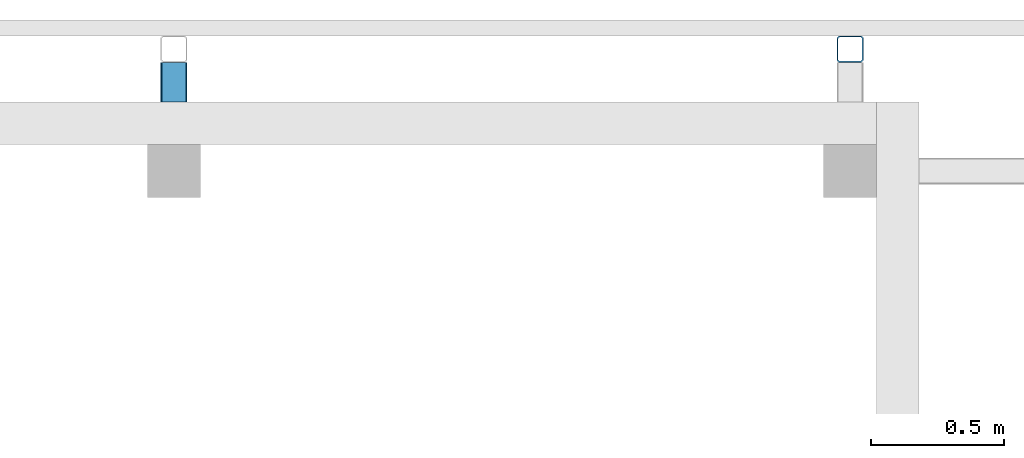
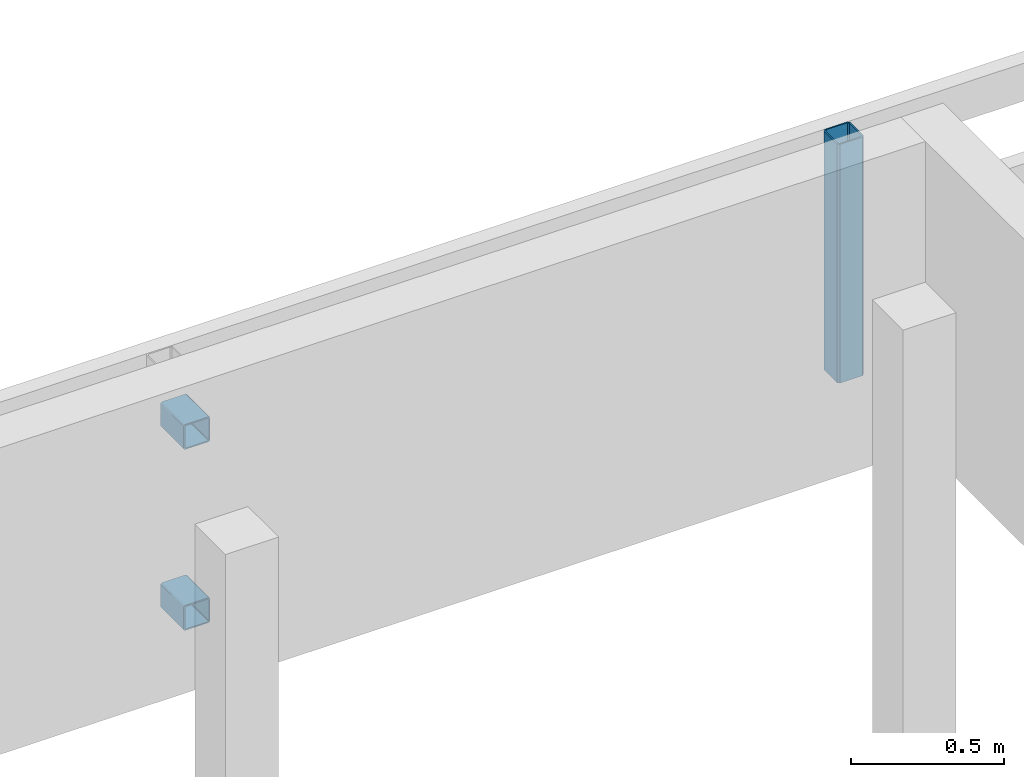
# One storey, part 41 of 44: 3 members.
"""IFC4 building model written with IfcOpenShell, lengths in metres."""

from ifc_helpers import new_model, entity, si_unit, converted_unit, derived_unit, frame, origin, place, context, subcontext, project, spatial, faceted_brep, material, element, save


model = new_model("IFC4")

# Units and contexts
model_context = context("Model", 3, precision=1e-05, world=origin())
plan_context = context("Plan", 2, precision=1e-05, world=origin())
body_context = subcontext(model_context, "Body", "Model", "MODEL_VIEW")
ifc_project = project(units=[si_unit("LENGTHUNIT", "METRE"), si_unit("AREAUNIT", "SQUARE_METRE"), si_unit("VOLUMEUNIT", "CUBIC_METRE"), si_unit("MASSUNIT", "GRAM", prefix="KILO"), converted_unit("PLANEANGLEUNIT", "DEGREE", entity("IfcPlaneAngleMeasure", 0.0174532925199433), si_unit("PLANEANGLEUNIT", "RADIAN"), dimensions=[0, 0, 0, 0, 0, 0, 0]), derived_unit("THERMALTRANSMITTANCEUNIT", [(si_unit("POWERUNIT", "WATT"), 1), (si_unit("THERMODYNAMICTEMPERATUREUNIT", "KELVIN"), -1), (si_unit("LENGTHUNIT", "METRE"), -2)]), derived_unit("VOLUMETRICFLOWRATEUNIT", [(si_unit("LENGTHUNIT", "METRE"), 3), (converted_unit("TIMEUNIT", "hour", entity("IfcTimeMeasure", 3600.0), si_unit("TIMEUNIT", "SECOND"), dimensions=[0, 0, 1, 0, 0, 0, 0]), -1), (si_unit("LENGTHUNIT", "METRE"), -1)])], contexts=[model_context, plan_context])

# Site, building, storey
site_placement = place(None, origin())
site = spatial("IfcSite", under=ifc_project, at=site_placement, Name="Site", CompositionType="ELEMENT")
building_placement = place(site_placement, origin())
building = spatial("IfcBuilding", under=site, at=building_placement, Name="Admin", CompositionType="ELEMENT")
storey_placement = place(building_placement, frame((0.0, 0.0, 3.25)))
storey = spatial("IfcBuildingStorey", under=building, at=storey_placement, Name="01-Etage1", CompositionType="ELEMENT", Elevation=3.25)

# Members
ifc_material_1 = material(Name="S235")
member_1_placement = place(storey_placement, frame((57.9097996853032, 22.4994493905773, 2.82)))
element("IfcMember", 1, at=member_1_placement, inside=storey, material=ifc_material_1, Name="Bandeau R+1", context=body_context, shape_type="Brep", body=[
    faceted_brep([(0.09, 0.005, 0.0), (0.09, 0.005, 0.95), (0.01, 0.005, 0.95), (0.01, 0.005, 0.0), (0.095, 0.01, 0.0), (0.095, 0.01, 0.95), (0.095, 0.09, 0.0), (0.095, 0.09, 0.95), (0.09, 0.095, 0.0), (0.09, 0.095, 0.95), (0.01, 0.095, 0.0), (0.01, 0.095, 0.95), (0.005, 0.09, 0.0), (0.005, 0.09, 0.95), (0.005, 0.01, 0.0), (0.005, 0.01, 0.95), (0.0, 0.0075, 0.0), (0.0, 0.0075, 0.95), (0.0075, 0.0, 0.95), (0.0075, 0.0, 0.0), (0.0, 0.0925, 0.0), (0.0, 0.0925, 0.95), (0.0075, 0.1, 0.0), (0.0075, 0.1, 0.95), (0.0925, 0.1, 0.0), (0.0925, 0.1, 0.95), (0.1, 0.0925, 0.0), (0.1, 0.0925, 0.95), (0.1, 0.0075, 0.0), (0.1, 0.0075, 0.95), (0.0925, 0.0, 0.0), (0.0925, 0.0, 0.95)], [[[0, 1, 2, 3]], [[4, 5, 1, 0]], [[6, 7, 5, 4]], [[8, 9, 7, 6]], [[10, 11, 9, 8]], [[12, 13, 11, 10]], [[14, 15, 13, 12]], [[3, 2, 15, 14]], [[16, 17, 18, 19]], [[20, 21, 17, 16]], [[22, 23, 21, 20]], [[24, 25, 23, 22]], [[26, 27, 25, 24]], [[28, 29, 27, 26]], [[30, 31, 29, 28]], [[19, 18, 31, 30]], [[18, 17, 21, 23, 25, 27, 29, 31], [2, 1, 5, 7, 9, 11, 13, 15]], [[19, 30, 28, 26, 24, 22, 20, 16], [3, 14, 12, 10, 8, 6, 4, 0]]], orient=[[False], [False], [False], [False], [False], [False], [False], [False], [False], [False], [False], [False], [False], [False], [False], [False], [False, False], [False, False]]),
])
ifc_material_2 = material(Name="S235")
member_2_placement = place(storey_placement, frame((55.3598005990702, 22.3494493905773, 2.82)))
element("IfcMember", 2, at=member_2_placement, inside=storey, material=ifc_material_2, Name="Bandeau R+1", context=body_context, shape_type="Brep", body=[
    faceted_brep([(0.0050000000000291, 0.15, 0.09), (0.0050000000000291, 0.15, 0.01), (0.00500000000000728, 1.81898940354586e-14, 0.01), (0.00500000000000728, 1.81898940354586e-14, 0.09), (0.00507596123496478, 0.15, 0.0908682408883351), (0.00507596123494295, 1.81898940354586e-14, 0.0908682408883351), (0.0053015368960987, 0.15, 0.0917101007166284), (0.00530153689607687, 1.81898940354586e-14, 0.0917101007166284), (0.00566987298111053, 0.15, 0.0925), (0.0056698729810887, 1.81898940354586e-14, 0.0925), (0.00616977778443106, 0.15, 0.0932139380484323), (0.00616977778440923, 1.81898940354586e-14, 0.0932139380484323), (0.00678606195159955, 0.15, 0.0938302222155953), (0.00678606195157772, 1.81898940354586e-14, 0.0938302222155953), (0.0075000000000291, 0.15, 0.0943301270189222), (0.00750000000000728, 1.81898940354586e-14, 0.0943301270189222), (0.00828989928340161, 0.15, 0.0946984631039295), (0.00828989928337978, 1.81898940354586e-14, 0.0946984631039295), (0.00913175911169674, 0.15, 0.0949240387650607), (0.00913175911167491, 1.81898940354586e-14, 0.0949240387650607), (0.0100000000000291, 0.15, 0.095), (0.0100000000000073, 1.81898940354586e-14, 0.095), (0.0900000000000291, 0.149999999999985, 0.095), (0.0900000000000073, 3.63797880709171e-15, 0.095), (0.0908682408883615, 0.149999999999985, 0.0949240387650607), (0.0908682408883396, 3.63797880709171e-15, 0.0949240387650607), (0.0917101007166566, 0.149999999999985, 0.0946984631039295), (0.0917101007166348, 3.63797880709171e-15, 0.0946984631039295), (0.0925000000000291, 0.149999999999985, 0.0943301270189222), (0.0925000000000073, 3.63797880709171e-15, 0.0943301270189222), (0.0932139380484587, 0.149999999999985, 0.0938302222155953), (0.0932139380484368, 3.63797880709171e-15, 0.0938302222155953), (0.0938302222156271, 0.149999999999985, 0.0932139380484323), (0.0938302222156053, 3.63797880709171e-15, 0.0932139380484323), (0.0943301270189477, 0.149999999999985, 0.0925), (0.0943301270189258, 3.63797880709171e-15, 0.0925), (0.0946984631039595, 0.149999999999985, 0.0917101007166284), (0.0946984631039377, 3.63797880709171e-15, 0.0917101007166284), (0.0949240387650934, 0.149999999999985, 0.0908682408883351), (0.0949240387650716, 3.63797880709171e-15, 0.0908682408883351), (0.0950000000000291, 0.149999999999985, 0.09), (0.0950000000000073, 3.63797880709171e-15, 0.09), (0.0950000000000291, 0.149999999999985, 0.01), (0.0950000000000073, 3.63797880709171e-15, 0.01), (0.0949240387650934, 0.149999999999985, 0.00913175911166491), (0.0949240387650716, 3.63797880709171e-15, 0.00913175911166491), (0.0946984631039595, 0.149999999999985, 0.0082898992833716), (0.0946984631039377, 3.63797880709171e-15, 0.0082898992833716), (0.0943301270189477, 0.149999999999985, 0.0075), (0.0943301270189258, 3.63797880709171e-15, 0.0075), (0.0938302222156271, 0.149999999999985, 0.00678606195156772), (0.0938302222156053, 3.63797880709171e-15, 0.00678606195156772), (0.0932139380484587, 0.149999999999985, 0.00616977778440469), (0.0932139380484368, 3.63797880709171e-15, 0.00616977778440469), (0.0925000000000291, 0.149999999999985, 0.00566987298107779), (0.0925000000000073, 3.63797880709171e-15, 0.00566987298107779), (0.0917101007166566, 0.149999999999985, 0.0053015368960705), (0.0917101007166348, 3.63797880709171e-15, 0.0053015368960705), (0.0908682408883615, 0.149999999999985, 0.00507596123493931), (0.0908682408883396, 3.63797880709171e-15, 0.00507596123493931), (0.0900000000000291, 0.149999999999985, 0.005), (0.0900000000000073, 3.63797880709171e-15, 0.005), (0.0100000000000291, 0.15, 0.005), (0.0100000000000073, 1.81898940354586e-14, 0.005), (0.00913175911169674, 0.15, 0.00507596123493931), (0.00913175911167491, 1.81898940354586e-14, 0.00507596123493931), (0.00828989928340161, 0.15, 0.0053015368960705), (0.00828989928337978, 1.81898940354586e-14, 0.0053015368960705), (0.0075000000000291, 0.15, 0.00566987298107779), (0.00750000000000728, 1.81898940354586e-14, 0.00566987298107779), (0.00678606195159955, 0.15, 0.00616977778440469), (0.00678606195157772, 1.81898940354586e-14, 0.00616977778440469), (0.00616977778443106, 0.15, 0.00678606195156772), (0.00616977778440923, 1.81898940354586e-14, 0.00678606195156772), (0.00566987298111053, 0.15, 0.0075), (0.0056698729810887, 1.81898940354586e-14, 0.0075), (0.0053015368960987, 0.15, 0.0082898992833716), (0.00530153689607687, 1.81898940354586e-14, 0.0082898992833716), (0.00507596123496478, 0.15, 0.00913175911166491), (0.00507596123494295, 1.81898940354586e-14, 0.00913175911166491), (0.0925000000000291, 0.149999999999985, 0.1), (0.0938023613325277, 0.149999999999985, 0.0998860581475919), (0.0938023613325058, 3.63797880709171e-15, 0.0998860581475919), (0.0925000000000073, 3.63797880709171e-15, 0.1), (0.0075000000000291, 0.15, 0.1), (0.00750000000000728, 1.81898940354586e-14, 0.1), (0.00619763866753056, 0.15, 0.0998860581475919), (0.00619763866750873, 1.81898940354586e-14, 0.0998860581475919), (0.00493484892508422, 0.15, 0.0995476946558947), (0.0049348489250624, 1.81898940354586e-14, 0.0995476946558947), (0.0037500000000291, 0.15, 0.0989951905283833), (0.00375000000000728, 1.81898940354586e-14, 0.0989951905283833), (0.0026790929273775, 0.15, 0.0982453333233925), (0.00267909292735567, 1.81898940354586e-14, 0.0982453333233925), (0.00175466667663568, 0.15, 0.0973209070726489), (0.00175466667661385, 1.81898940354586e-14, 0.0973209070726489), (0.0010048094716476, 0.15, 0.09625), (0.00100480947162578, 1.81898940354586e-14, 0.09625), (0.00045230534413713, 0.15, 0.0950651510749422), (0.000452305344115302, 1.81898940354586e-14, 0.0950651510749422), (0.000113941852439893, 0.15, 0.0938023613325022), (0.000113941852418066, 1.81898940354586e-14, 0.0938023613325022), (2.18278728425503e-14, 0.15, 0.0925), (7.27595761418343e-15, 1.45519152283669e-14, 0.0925), (0.000113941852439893, 0.15, 0.00619763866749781), (2.91038304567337e-14, 0.15, 0.0075), (7.27595761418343e-15, 1.81898940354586e-14, 0.0075), (0.000113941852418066, 1.81898940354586e-14, 0.00619763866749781), (0.00045230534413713, 0.15, 0.00493484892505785), (0.000452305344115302, 1.81898940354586e-14, 0.00493484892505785), (0.0010048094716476, 0.15, 0.00375), (0.00100480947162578, 1.81898940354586e-14, 0.00375), (0.00175466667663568, 0.15, 0.00267909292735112), (0.00175466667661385, 1.81898940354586e-14, 0.00267909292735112), (0.0026790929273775, 0.15, 0.00175466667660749), (0.00267909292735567, 1.81898940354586e-14, 0.00175466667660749), (0.0037500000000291, 0.15, 0.00100480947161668), (0.00375000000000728, 1.81898940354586e-14, 0.00100480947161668), (0.00493484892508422, 0.15, 0.000452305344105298), (0.0049348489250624, 1.81898940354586e-14, 0.000452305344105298), (0.00619763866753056, 0.15, 0.000113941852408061), (0.00619763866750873, 1.81898940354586e-14, 0.000113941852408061), (0.0075000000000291, 0.15, 0.0), (0.00750000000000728, 1.81898940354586e-14, 0.0), (0.0925000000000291, 0.149999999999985, 0.0), (0.0925000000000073, 3.63797880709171e-15, 0.0), (0.0938023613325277, 0.149999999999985, 0.000113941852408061), (0.0938023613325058, 3.63797880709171e-15, 0.000113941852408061), (0.095065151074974, 0.149999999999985, 0.000452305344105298), (0.0950651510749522, 3.63797880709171e-15, 0.000452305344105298), (0.0962500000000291, 0.149999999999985, 0.00100480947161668), (0.0962500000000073, 3.63797880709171e-15, 0.00100480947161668), (0.0973209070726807, 0.149999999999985, 0.00175466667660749), (0.0973209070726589, 3.63797880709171e-15, 0.00175466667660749), (0.0982453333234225, 0.149999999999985, 0.00267909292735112), (0.0982453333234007, 3.63797880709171e-15, 0.00267909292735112), (0.0989951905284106, 0.149999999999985, 0.00375), (0.0989951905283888, 3.63797880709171e-15, 0.00375), (0.0995476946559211, 0.149999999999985, 0.00493484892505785), (0.0995476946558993, 3.63797880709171e-15, 0.00493484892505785), (0.0998860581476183, 0.149999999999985, 0.00619763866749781), (0.0998860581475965, 3.63797880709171e-15, 0.00619763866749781), (0.100000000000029, 0.15, 0.0075), (0.100000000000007, 3.63797880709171e-15, 0.0075), (0.0998860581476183, 0.149999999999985, 0.0938023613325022), (0.100000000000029, 0.15, 0.0925), (0.100000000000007, 3.63797880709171e-15, 0.0925), (0.0998860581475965, 3.63797880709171e-15, 0.0938023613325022), (0.0995476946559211, 0.149999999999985, 0.0950651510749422), (0.0995476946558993, 3.63797880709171e-15, 0.0950651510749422), (0.0989951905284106, 0.149999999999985, 0.09625), (0.0989951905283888, 3.63797880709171e-15, 0.09625), (0.0982453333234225, 0.149999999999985, 0.0973209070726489), (0.0982453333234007, 3.63797880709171e-15, 0.0973209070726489), (0.0973209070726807, 0.149999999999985, 0.0982453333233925), (0.0973209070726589, 3.63797880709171e-15, 0.0982453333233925), (0.0962500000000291, 0.149999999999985, 0.0989951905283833), (0.0962500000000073, 3.63797880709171e-15, 0.0989951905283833), (0.095065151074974, 0.149999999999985, 0.0995476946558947), (0.0950651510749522, 3.63797880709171e-15, 0.0995476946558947)], [[[0, 1, 2, 3]], [[4, 0, 3, 5]], [[6, 4, 5, 7]], [[8, 6, 7, 9]], [[10, 8, 9, 11]], [[12, 10, 11, 13]], [[14, 12, 13, 15]], [[16, 14, 15, 17]], [[18, 16, 17, 19]], [[20, 18, 19, 21]], [[22, 20, 21, 23]], [[24, 22, 23, 25]], [[26, 24, 25, 27]], [[28, 26, 27, 29]], [[30, 28, 29, 31]], [[32, 30, 31, 33]], [[34, 32, 33, 35]], [[36, 34, 35, 37]], [[38, 36, 37, 39]], [[40, 38, 39, 41]], [[42, 40, 41, 43]], [[44, 42, 43, 45]], [[46, 44, 45, 47]], [[48, 46, 47, 49]], [[50, 48, 49, 51]], [[52, 50, 51, 53]], [[54, 52, 53, 55]], [[56, 54, 55, 57]], [[58, 56, 57, 59]], [[60, 58, 59, 61]], [[62, 60, 61, 63]], [[64, 62, 63, 65]], [[66, 64, 65, 67]], [[68, 66, 67, 69]], [[70, 68, 69, 71]], [[72, 70, 71, 73]], [[74, 72, 73, 75]], [[76, 74, 75, 77]], [[78, 76, 77, 79]], [[1, 78, 79, 2]], [[80, 81, 82, 83]], [[84, 80, 83, 85]], [[86, 84, 85, 87]], [[88, 86, 87, 89]], [[90, 88, 89, 91]], [[92, 90, 91, 93]], [[94, 92, 93, 95]], [[96, 94, 95, 97]], [[98, 96, 97, 99]], [[100, 98, 99, 101]], [[102, 100, 101, 103]], [[104, 105, 106, 107]], [[108, 104, 107, 109]], [[110, 108, 109, 111]], [[112, 110, 111, 113]], [[114, 112, 113, 115]], [[116, 114, 115, 117]], [[118, 116, 117, 119]], [[120, 118, 119, 121]], [[122, 120, 121, 123]], [[124, 122, 123, 125]], [[126, 124, 125, 127]], [[128, 126, 127, 129]], [[130, 128, 129, 131]], [[132, 130, 131, 133]], [[134, 132, 133, 135]], [[136, 134, 135, 137]], [[138, 136, 137, 139]], [[140, 138, 139, 141]], [[142, 140, 141, 143]], [[144, 145, 146, 147]], [[148, 144, 147, 149]], [[150, 148, 149, 151]], [[152, 150, 151, 153]], [[154, 152, 153, 155]], [[156, 154, 155, 157]], [[158, 156, 157, 159]], [[81, 158, 159, 82]], [[146, 143, 141, 139, 137, 135, 133, 131, 129, 127, 125, 123, 121, 119, 117, 115, 113, 111, 109, 107, 106, 103, 101, 99, 97, 95, 93, 91, 89, 87, 85, 83, 82, 159, 157, 155, 153, 151, 149, 147], [2, 79, 77, 75, 73, 71, 69, 67, 65, 63, 61, 59, 57, 55, 53, 51, 49, 47, 45, 43, 41, 39, 37, 35, 33, 31, 29, 27, 25, 23, 21, 19, 17, 15, 13, 11, 9, 7, 5, 3]], [[103, 106, 105, 102]], [[102, 105, 104, 108, 110, 112, 114, 116, 118, 120, 122, 124, 126, 128, 130, 132, 134, 136, 138, 140, 142, 145, 144, 148, 150, 152, 154, 156, 158, 81, 80, 84, 86, 88, 90, 92, 94, 96, 98, 100], [1, 0, 4, 6, 8, 10, 12, 14, 16, 18, 20, 22, 24, 26, 28, 30, 32, 34, 36, 38, 40, 42, 44, 46, 48, 50, 52, 54, 56, 58, 60, 62, 64, 66, 68, 70, 72, 74, 76, 78]], [[145, 142, 143, 146]]], orient=[[False], [False], [False], [False], [False], [False], [False], [False], [False], [False], [False], [False], [False], [False], [False], [False], [False], [False], [False], [False], [False], [False], [False], [False], [False], [False], [False], [False], [False], [False], [False], [False], [False], [False], [False], [False], [False], [False], [False], [False], [False], [False], [False], [False], [False], [False], [False], [False], [False], [False], [False], [False], [False], [False], [False], [False], [False], [False], [False], [False], [False], [False], [False], [False], [False], [False], [False], [False], [False], [False], [False], [False], [False], [False], [False], [False], [False], [False], [False, False], [False], [False, False], [False]]),
])
ifc_material_3 = material(Name="S235")
member_3_placement = place(storey_placement, frame((55.3598005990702, 22.3494493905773, 3.54)))
element("IfcMember", 3, at=member_3_placement, inside=storey, material=ifc_material_3, Name="Bandeau R+1", context=body_context, shape_type="Brep", body=[
    faceted_brep([(0.0050000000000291, 0.149999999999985, 0.09), (0.0050000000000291, 0.149999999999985, 0.01), (0.00500000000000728, 1.09139364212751e-14, 0.01), (0.00500000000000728, 1.09139364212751e-14, 0.09), (0.00507596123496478, 0.149999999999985, 0.0908682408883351), (0.00507596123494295, 1.09139364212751e-14, 0.0908682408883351), (0.0053015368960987, 0.149999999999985, 0.0917101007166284), (0.00530153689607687, 1.09139364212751e-14, 0.0917101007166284), (0.00566987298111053, 0.149999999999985, 0.0925), (0.0056698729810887, 1.09139364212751e-14, 0.0925), (0.00616977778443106, 0.149999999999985, 0.0932139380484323), (0.00616977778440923, 1.09139364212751e-14, 0.0932139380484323), (0.00678606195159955, 0.149999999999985, 0.0938302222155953), (0.00678606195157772, 1.09139364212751e-14, 0.0938302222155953), (0.0075000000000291, 0.149999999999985, 0.0943301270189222), (0.00750000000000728, 1.09139364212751e-14, 0.0943301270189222), (0.00828989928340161, 0.149999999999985, 0.0946984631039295), (0.00828989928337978, 1.09139364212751e-14, 0.0946984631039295), (0.00913175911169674, 0.149999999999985, 0.0949240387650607), (0.00913175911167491, 1.09139364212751e-14, 0.0949240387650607), (0.0100000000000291, 0.149999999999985, 0.095), (0.0100000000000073, 1.09139364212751e-14, 0.095), (0.0900000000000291, 0.149999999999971, 0.095), (0.0900000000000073, -3.63797880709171e-15, 0.095), (0.0908682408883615, 0.149999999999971, 0.0949240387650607), (0.0908682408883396, -3.63797880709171e-15, 0.0949240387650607), (0.0917101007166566, 0.149999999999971, 0.0946984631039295), (0.0917101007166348, -3.63797880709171e-15, 0.0946984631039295), (0.0925000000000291, 0.149999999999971, 0.0943301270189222), (0.0925000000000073, -3.63797880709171e-15, 0.0943301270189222), (0.0932139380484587, 0.149999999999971, 0.0938302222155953), (0.0932139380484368, -3.63797880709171e-15, 0.0938302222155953), (0.0938302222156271, 0.149999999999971, 0.0932139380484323), (0.0938302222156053, -3.63797880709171e-15, 0.0932139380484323), (0.0943301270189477, 0.149999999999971, 0.0925), (0.0943301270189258, -3.63797880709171e-15, 0.0925), (0.0946984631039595, 0.149999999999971, 0.0917101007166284), (0.0946984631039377, -3.63797880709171e-15, 0.0917101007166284), (0.0949240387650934, 0.149999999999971, 0.0908682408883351), (0.0949240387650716, -3.63797880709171e-15, 0.0908682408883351), (0.0950000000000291, 0.149999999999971, 0.09), (0.0950000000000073, -3.63797880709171e-15, 0.09), (0.0950000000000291, 0.149999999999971, 0.01), (0.0950000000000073, -3.63797880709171e-15, 0.01), (0.0949240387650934, 0.149999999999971, 0.00913175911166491), (0.0949240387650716, -3.63797880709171e-15, 0.00913175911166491), (0.0946984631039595, 0.149999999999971, 0.0082898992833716), (0.0946984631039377, -3.63797880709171e-15, 0.0082898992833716), (0.0943301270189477, 0.149999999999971, 0.0075), (0.0943301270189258, -3.63797880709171e-15, 0.0075), (0.0938302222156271, 0.149999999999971, 0.00678606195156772), (0.0938302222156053, -3.63797880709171e-15, 0.00678606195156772), (0.0932139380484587, 0.149999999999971, 0.00616977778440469), (0.0932139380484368, -3.63797880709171e-15, 0.00616977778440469), (0.0925000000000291, 0.149999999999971, 0.00566987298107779), (0.0925000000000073, -3.63797880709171e-15, 0.00566987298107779), (0.0917101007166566, 0.149999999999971, 0.0053015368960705), (0.0917101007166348, -3.63797880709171e-15, 0.0053015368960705), (0.0908682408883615, 0.149999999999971, 0.00507596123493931), (0.0908682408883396, -3.63797880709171e-15, 0.00507596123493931), (0.0900000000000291, 0.149999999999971, 0.005), (0.0900000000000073, -3.63797880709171e-15, 0.005), (0.0100000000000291, 0.149999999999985, 0.005), (0.0100000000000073, 1.09139364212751e-14, 0.005), (0.00913175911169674, 0.149999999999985, 0.00507596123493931), (0.00913175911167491, 1.09139364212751e-14, 0.00507596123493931), (0.00828989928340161, 0.149999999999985, 0.0053015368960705), (0.00828989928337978, 1.09139364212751e-14, 0.0053015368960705), (0.0075000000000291, 0.149999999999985, 0.00566987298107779), (0.00750000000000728, 1.09139364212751e-14, 0.00566987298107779), (0.00678606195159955, 0.149999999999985, 0.00616977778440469), (0.00678606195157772, 1.09139364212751e-14, 0.00616977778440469), (0.00616977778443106, 0.149999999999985, 0.00678606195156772), (0.00616977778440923, 1.09139364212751e-14, 0.00678606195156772), (0.00566987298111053, 0.149999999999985, 0.0075), (0.0056698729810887, 1.09139364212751e-14, 0.0075), (0.0053015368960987, 0.149999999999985, 0.0082898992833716), (0.00530153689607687, 1.09139364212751e-14, 0.0082898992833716), (0.00507596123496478, 0.149999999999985, 0.00913175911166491), (0.00507596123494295, 1.09139364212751e-14, 0.00913175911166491), (0.0925000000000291, 0.149999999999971, 0.1), (0.0938023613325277, 0.149999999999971, 0.0998860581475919), (0.0938023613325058, -3.63797880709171e-15, 0.0998860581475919), (0.0925000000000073, -3.63797880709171e-15, 0.1), (0.0075000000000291, 0.149999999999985, 0.1), (0.00750000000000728, 1.09139364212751e-14, 0.1), (0.00619763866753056, 0.149999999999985, 0.0998860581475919), (0.00619763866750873, 1.09139364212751e-14, 0.0998860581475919), (0.00493484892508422, 0.149999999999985, 0.0995476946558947), (0.0049348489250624, 1.09139364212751e-14, 0.0995476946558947), (0.0037500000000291, 0.149999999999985, 0.0989951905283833), (0.00375000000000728, 1.09139364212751e-14, 0.0989951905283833), (0.0026790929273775, 0.149999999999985, 0.0982453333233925), (0.00267909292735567, 1.09139364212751e-14, 0.0982453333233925), (0.00175466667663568, 0.149999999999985, 0.0973209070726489), (0.00175466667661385, 1.09139364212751e-14, 0.0973209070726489), (0.0010048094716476, 0.149999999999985, 0.09625), (0.00100480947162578, 1.09139364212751e-14, 0.09625), (0.00045230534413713, 0.149999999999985, 0.0950651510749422), (0.000452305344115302, 1.09139364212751e-14, 0.0950651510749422), (0.000113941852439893, 0.149999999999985, 0.0938023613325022), (0.000113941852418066, 1.09139364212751e-14, 0.0938023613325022), (2.18278728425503e-14, 0.149999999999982, 0.0925), (7.27595761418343e-15, 7.27595761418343e-15, 0.0925), (0.000113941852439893, 0.149999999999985, 0.00619763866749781), (2.91038304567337e-14, 0.149999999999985, 0.0075), (7.27595761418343e-15, 1.09139364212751e-14, 0.0075), (0.000113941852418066, 1.09139364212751e-14, 0.00619763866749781), (0.00045230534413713, 0.149999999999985, 0.00493484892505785), (0.000452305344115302, 1.09139364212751e-14, 0.00493484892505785), (0.0010048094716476, 0.149999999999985, 0.00375), (0.00100480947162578, 1.09139364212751e-14, 0.00375), (0.00175466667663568, 0.149999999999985, 0.00267909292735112), (0.00175466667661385, 1.09139364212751e-14, 0.00267909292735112), (0.0026790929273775, 0.149999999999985, 0.00175466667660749), (0.00267909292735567, 1.09139364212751e-14, 0.00175466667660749), (0.0037500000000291, 0.149999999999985, 0.00100480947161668), (0.00375000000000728, 1.09139364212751e-14, 0.00100480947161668), (0.00493484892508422, 0.149999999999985, 0.000452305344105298), (0.0049348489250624, 1.09139364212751e-14, 0.000452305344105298), (0.00619763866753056, 0.149999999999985, 0.000113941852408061), (0.00619763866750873, 1.09139364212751e-14, 0.000113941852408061), (0.0075000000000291, 0.149999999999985, 0.0), (0.00750000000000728, 1.09139364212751e-14, 0.0), (0.0925000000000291, 0.149999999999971, 0.0), (0.0925000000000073, -3.63797880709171e-15, 0.0), (0.0938023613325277, 0.149999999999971, 0.000113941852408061), (0.0938023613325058, -3.63797880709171e-15, 0.000113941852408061), (0.095065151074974, 0.149999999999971, 0.000452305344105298), (0.0950651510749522, -3.63797880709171e-15, 0.000452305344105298), (0.0962500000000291, 0.149999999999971, 0.00100480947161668), (0.0962500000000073, -3.63797880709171e-15, 0.00100480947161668), (0.0973209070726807, 0.149999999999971, 0.00175466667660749), (0.0973209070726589, -3.63797880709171e-15, 0.00175466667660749), (0.0982453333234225, 0.149999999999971, 0.00267909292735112), (0.0982453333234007, -3.63797880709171e-15, 0.00267909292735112), (0.0989951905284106, 0.149999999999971, 0.00375), (0.0989951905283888, -3.63797880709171e-15, 0.00375), (0.0995476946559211, 0.149999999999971, 0.00493484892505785), (0.0995476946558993, -3.63797880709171e-15, 0.00493484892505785), (0.0998860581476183, 0.149999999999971, 0.00619763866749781), (0.0998860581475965, -3.63797880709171e-15, 0.00619763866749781), (0.100000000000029, 0.149999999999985, 0.0075), (0.100000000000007, -3.63797880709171e-15, 0.0075), (0.0998860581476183, 0.149999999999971, 0.0938023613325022), (0.100000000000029, 0.149999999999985, 0.0925), (0.100000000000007, -3.63797880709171e-15, 0.0925), (0.0998860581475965, -3.63797880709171e-15, 0.0938023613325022), (0.0995476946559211, 0.149999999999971, 0.0950651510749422), (0.0995476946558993, -3.63797880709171e-15, 0.0950651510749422), (0.0989951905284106, 0.149999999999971, 0.09625), (0.0989951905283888, -3.63797880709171e-15, 0.09625), (0.0982453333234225, 0.149999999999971, 0.0973209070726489), (0.0982453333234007, -3.63797880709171e-15, 0.0973209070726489), (0.0973209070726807, 0.149999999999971, 0.0982453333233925), (0.0973209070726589, -3.63797880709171e-15, 0.0982453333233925), (0.0962500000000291, 0.149999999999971, 0.0989951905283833), (0.0962500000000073, -3.63797880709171e-15, 0.0989951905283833), (0.095065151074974, 0.149999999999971, 0.0995476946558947), (0.0950651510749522, -3.63797880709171e-15, 0.0995476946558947)], [[[0, 1, 2, 3]], [[4, 0, 3, 5]], [[6, 4, 5, 7]], [[8, 6, 7, 9]], [[10, 8, 9, 11]], [[12, 10, 11, 13]], [[14, 12, 13, 15]], [[16, 14, 15, 17]], [[18, 16, 17, 19]], [[20, 18, 19, 21]], [[22, 20, 21, 23]], [[24, 22, 23, 25]], [[26, 24, 25, 27]], [[28, 26, 27, 29]], [[30, 28, 29, 31]], [[32, 30, 31, 33]], [[34, 32, 33, 35]], [[36, 34, 35, 37]], [[38, 36, 37, 39]], [[40, 38, 39, 41]], [[42, 40, 41, 43]], [[44, 42, 43, 45]], [[46, 44, 45, 47]], [[48, 46, 47, 49]], [[50, 48, 49, 51]], [[52, 50, 51, 53]], [[54, 52, 53, 55]], [[56, 54, 55, 57]], [[58, 56, 57, 59]], [[60, 58, 59, 61]], [[62, 60, 61, 63]], [[64, 62, 63, 65]], [[66, 64, 65, 67]], [[68, 66, 67, 69]], [[70, 68, 69, 71]], [[72, 70, 71, 73]], [[74, 72, 73, 75]], [[76, 74, 75, 77]], [[78, 76, 77, 79]], [[1, 78, 79, 2]], [[80, 81, 82, 83]], [[84, 80, 83, 85]], [[86, 84, 85, 87]], [[88, 86, 87, 89]], [[90, 88, 89, 91]], [[92, 90, 91, 93]], [[94, 92, 93, 95]], [[96, 94, 95, 97]], [[98, 96, 97, 99]], [[100, 98, 99, 101]], [[102, 100, 101, 103]], [[104, 105, 106, 107]], [[108, 104, 107, 109]], [[110, 108, 109, 111]], [[112, 110, 111, 113]], [[114, 112, 113, 115]], [[116, 114, 115, 117]], [[118, 116, 117, 119]], [[120, 118, 119, 121]], [[122, 120, 121, 123]], [[124, 122, 123, 125]], [[126, 124, 125, 127]], [[128, 126, 127, 129]], [[130, 128, 129, 131]], [[132, 130, 131, 133]], [[134, 132, 133, 135]], [[136, 134, 135, 137]], [[138, 136, 137, 139]], [[140, 138, 139, 141]], [[142, 140, 141, 143]], [[144, 145, 146, 147]], [[148, 144, 147, 149]], [[150, 148, 149, 151]], [[152, 150, 151, 153]], [[154, 152, 153, 155]], [[156, 154, 155, 157]], [[158, 156, 157, 159]], [[81, 158, 159, 82]], [[146, 143, 141, 139, 137, 135, 133, 131, 129, 127, 125, 123, 121, 119, 117, 115, 113, 111, 109, 107, 106, 103, 101, 99, 97, 95, 93, 91, 89, 87, 85, 83, 82, 159, 157, 155, 153, 151, 149, 147], [2, 79, 77, 75, 73, 71, 69, 67, 65, 63, 61, 59, 57, 55, 53, 51, 49, 47, 45, 43, 41, 39, 37, 35, 33, 31, 29, 27, 25, 23, 21, 19, 17, 15, 13, 11, 9, 7, 5, 3]], [[103, 106, 105, 102]], [[102, 105, 104, 108, 110, 112, 114, 116, 118, 120, 122, 124, 126, 128, 130, 132, 134, 136, 138, 140, 142, 145, 144, 148, 150, 152, 154, 156, 158, 81, 80, 84, 86, 88, 90, 92, 94, 96, 98, 100], [1, 0, 4, 6, 8, 10, 12, 14, 16, 18, 20, 22, 24, 26, 28, 30, 32, 34, 36, 38, 40, 42, 44, 46, 48, 50, 52, 54, 56, 58, 60, 62, 64, 66, 68, 70, 72, 74, 76, 78]], [[145, 142, 143, 146]]], orient=[[False], [False], [False], [False], [False], [False], [False], [False], [False], [False], [False], [False], [False], [False], [False], [False], [False], [False], [False], [False], [False], [False], [False], [False], [False], [False], [False], [False], [False], [False], [False], [False], [False], [False], [False], [False], [False], [False], [False], [False], [False], [False], [False], [False], [False], [False], [False], [False], [False], [False], [False], [False], [False], [False], [False], [False], [False], [False], [False], [False], [False], [False], [False], [False], [False], [False], [False], [False], [False], [False], [False], [False], [False], [False], [False], [False], [False], [False], [False, False], [False], [False, False], [False]]),
])

save(model, "model.ifc")
